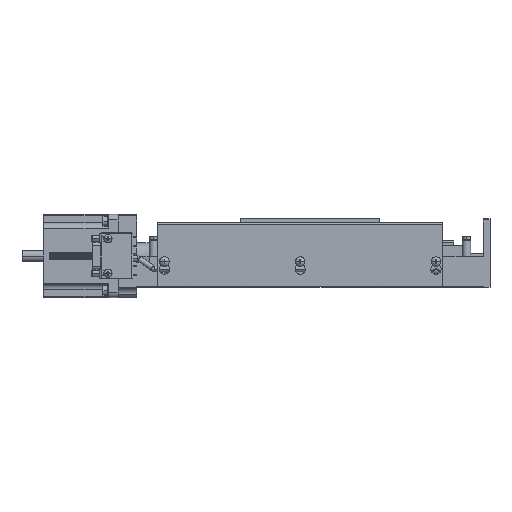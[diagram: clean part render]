
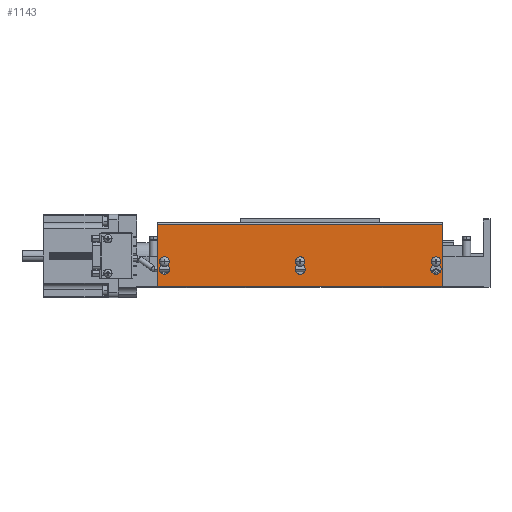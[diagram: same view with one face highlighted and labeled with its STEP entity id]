
A CAD part, front view. The second image highlights one B-rep face of the part: STEP entity #1143.
In plain terms, the highlighted planar face has unit normal (0, -1, 0).
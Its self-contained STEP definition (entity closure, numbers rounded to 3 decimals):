
#1143=ADVANCED_FACE('',(#13620,#13621,#13622,#13623),#13619,.T.);
#13619=PLANE('',#39119);
#13620=FACE_OUTER_BOUND('',#39120,.T.);
#13621=FACE_BOUND('',#39121,.T.);
#13622=FACE_BOUND('',#39122,.T.);
#13623=FACE_BOUND('',#39123,.T.);
#39116=CARTESIAN_POINT('',(-120.,-70.,50.28));
#39117=DIRECTION('',(0.,-1.,0.));
#39118=DIRECTION('',(0.,0.,-1.));
#39119=AXIS2_PLACEMENT_3D('',#39116,#39117,#39118);
#39120=EDGE_LOOP('',(#59580,#59581,#59582,#59583));
#39121=EDGE_LOOP('',(#59584,#59585,#59586,#59587));
#39122=EDGE_LOOP('',(#59588,#59589,#59590,#59591));
#39123=EDGE_LOOP('',(#59592,#59593,#59594,#59595));
#59580=ORIENTED_EDGE('',*,*,#71570,.F.);
#59581=ORIENTED_EDGE('',*,*,#71585,.F.);
#59582=ORIENTED_EDGE('',*,*,#71560,.T.);
#59583=ORIENTED_EDGE('',*,*,#71584,.T.);
#59584=ORIENTED_EDGE('',*,*,#71586,.F.);
#59585=ORIENTED_EDGE('',*,*,#71587,.F.);
#59586=ORIENTED_EDGE('',*,*,#71588,.F.);
#59587=ORIENTED_EDGE('',*,*,#71530,.F.);
#59588=ORIENTED_EDGE('',*,*,#71589,.F.);
#59589=ORIENTED_EDGE('',*,*,#71590,.F.);
#59590=ORIENTED_EDGE('',*,*,#71591,.F.);
#59591=ORIENTED_EDGE('',*,*,#71550,.F.);
#59592=ORIENTED_EDGE('',*,*,#71592,.F.);
#59593=ORIENTED_EDGE('',*,*,#71593,.F.);
#59594=ORIENTED_EDGE('',*,*,#71594,.F.);
#59595=ORIENTED_EDGE('',*,*,#71540,.F.);
#71530=EDGE_CURVE('',#91454,#91446,#97638,.T.);
#71540=EDGE_CURVE('',#90896,#90888,#97704,.T.);
#71550=EDGE_CURVE('',#91175,#91167,#97770,.T.);
#71560=EDGE_CURVE('',#97836,#97829,#97837,.T.);
#71570=EDGE_CURVE('',#97899,#97906,#97907,.T.);
#71584=EDGE_CURVE('',#97829,#97906,#97998,.T.);
#71585=EDGE_CURVE('',#97836,#97899,#98004,.T.);
#71586=EDGE_CURVE('',#98010,#91454,#98011,.T.);
#71587=EDGE_CURVE('',#98017,#98010,#98018,.T.);
#71588=EDGE_CURVE('',#91446,#98017,#98024,.T.);
#71589=EDGE_CURVE('',#98030,#91175,#98031,.T.);
#71590=EDGE_CURVE('',#98037,#98030,#98038,.T.);
#71591=EDGE_CURVE('',#91167,#98037,#98044,.T.);
#71592=EDGE_CURVE('',#98050,#90896,#98051,.T.);
#71593=EDGE_CURVE('',#98057,#98050,#98058,.T.);
#71594=EDGE_CURVE('',#90888,#98057,#98064,.T.);
#90888=VERTEX_POINT('',#130734);
#90896=VERTEX_POINT('',#130740);
#91167=VERTEX_POINT('',#130906);
#91175=VERTEX_POINT('',#130912);
#91446=VERTEX_POINT('',#131078);
#91454=VERTEX_POINT('',#131084);
#97638=CIRCLE('',#134787,3.75);
#97704=CIRCLE('',#134827,3.75);
#97770=CIRCLE('',#134867,3.75);
#97829=VERTEX_POINT('',#134904);
#97836=VERTEX_POINT('',#134908);
#97837=LINE('',#134909,#134910);
#97899=VERTEX_POINT('',#134946);
#97906=VERTEX_POINT('',#134951);
#97907=LINE('',#134952,#134953);
#97998=LINE('',#135010,#135011);
#98004=LINE('',#135013,#135014);
#98010=VERTEX_POINT('',#135016);
#98011=CIRCLE('',#135020,3.45);
#98017=VERTEX_POINT('',#135021);
#98018=CIRCLE('',#135025,3.45);
#98024=CIRCLE('',#135029,3.45);
#98030=VERTEX_POINT('',#135030);
#98031=CIRCLE('',#135034,3.45);
#98037=VERTEX_POINT('',#135035);
#98038=CIRCLE('',#135039,3.45);
#98044=CIRCLE('',#135043,3.45);
#98050=VERTEX_POINT('',#135044);
#98051=CIRCLE('',#135048,3.45);
#98057=VERTEX_POINT('',#135049);
#98058=CIRCLE('',#135053,3.45);
#98064=CIRCLE('',#135057,3.45);
#130734=CARTESIAN_POINT('',(93.32,-70.,16.446));
#130740=CARTESIAN_POINT('',(88.68,-70.,16.446));
#130906=CARTESIAN_POINT('',(-4.68,-70.,16.446));
#130912=CARTESIAN_POINT('',(-9.32,-70.,16.446));
#131078=CARTESIAN_POINT('',(-102.68,-70.,16.446));
#131084=CARTESIAN_POINT('',(-107.32,-70.,16.446));
#134784=CARTESIAN_POINT('',(-105.,-70.,13.5));
#134785=DIRECTION('',(0.,-1.,0.));
#134786=DIRECTION('',(-0.619,0.,0.786));
#134787=AXIS2_PLACEMENT_3D('',#134784,#134785,#134786);
#134824=CARTESIAN_POINT('',(91.,-70.,13.5));
#134825=DIRECTION('',(0.,-1.,0.));
#134826=DIRECTION('',(-0.619,0.,0.786));
#134827=AXIS2_PLACEMENT_3D('',#134824,#134825,#134826);
#134864=CARTESIAN_POINT('',(-7.,-70.,13.5));
#134865=DIRECTION('',(0.,-1.,0.));
#134866=DIRECTION('',(-0.619,0.,0.786));
#134867=AXIS2_PLACEMENT_3D('',#134864,#134865,#134866);
#134904=CARTESIAN_POINT('',(-110.,-70.,1.));
#134908=CARTESIAN_POINT('',(-110.,-70.,45.8));
#134909=CARTESIAN_POINT('',(-110.,-70.,45.8));
#134910=VECTOR('',#134911,44.8);
#134911=DIRECTION('',(0.,0.,-1.));
#134946=CARTESIAN_POINT('',(96.,-70.,45.8));
#134951=CARTESIAN_POINT('',(96.,-70.,1.));
#134952=CARTESIAN_POINT('',(96.,-70.,45.8));
#134953=VECTOR('',#134954,44.8);
#134954=DIRECTION('',(0.,0.,-1.));
#135010=CARTESIAN_POINT('',(-110.,-70.,1.));
#135011=VECTOR('',#135012,206.);
#135012=DIRECTION('',(1.,0.,0.));
#135013=CARTESIAN_POINT('',(-110.,-70.,45.8));
#135014=VECTOR('',#135015,206.);
#135015=DIRECTION('',(1.,0.,0.));
#135016=CARTESIAN_POINT('',(-108.45,-70.,19.));
#135017=CARTESIAN_POINT('',(-105.,-70.,19.));
#135018=DIRECTION('',(0.,-1.,0.));
#135019=DIRECTION('',(0.672,0.,-0.74));
#135020=AXIS2_PLACEMENT_3D('',#135017,#135018,#135019);
#135021=CARTESIAN_POINT('',(-101.55,-70.,19.));
#135022=CARTESIAN_POINT('',(-105.,-70.,19.));
#135023=DIRECTION('',(0.,-1.,0.));
#135024=DIRECTION('',(0.672,0.,-0.74));
#135025=AXIS2_PLACEMENT_3D('',#135022,#135023,#135024);
#135026=CARTESIAN_POINT('',(-105.,-70.,19.));
#135027=DIRECTION('',(0.,-1.,0.));
#135028=DIRECTION('',(0.672,0.,-0.74));
#135029=AXIS2_PLACEMENT_3D('',#135026,#135027,#135028);
#135030=CARTESIAN_POINT('',(-10.45,-70.,19.));
#135031=CARTESIAN_POINT('',(-7.,-70.,19.));
#135032=DIRECTION('',(0.,-1.,0.));
#135033=DIRECTION('',(0.672,0.,-0.74));
#135034=AXIS2_PLACEMENT_3D('',#135031,#135032,#135033);
#135035=CARTESIAN_POINT('',(-3.55,-70.,19.));
#135036=CARTESIAN_POINT('',(-7.,-70.,19.));
#135037=DIRECTION('',(0.,-1.,0.));
#135038=DIRECTION('',(0.672,0.,-0.74));
#135039=AXIS2_PLACEMENT_3D('',#135036,#135037,#135038);
#135040=CARTESIAN_POINT('',(-7.,-70.,19.));
#135041=DIRECTION('',(0.,-1.,0.));
#135042=DIRECTION('',(0.672,0.,-0.74));
#135043=AXIS2_PLACEMENT_3D('',#135040,#135041,#135042);
#135044=CARTESIAN_POINT('',(87.55,-70.,19.));
#135045=CARTESIAN_POINT('',(91.,-70.,19.));
#135046=DIRECTION('',(0.,-1.,0.));
#135047=DIRECTION('',(0.672,0.,-0.74));
#135048=AXIS2_PLACEMENT_3D('',#135045,#135046,#135047);
#135049=CARTESIAN_POINT('',(94.45,-70.,19.));
#135050=CARTESIAN_POINT('',(91.,-70.,19.));
#135051=DIRECTION('',(0.,-1.,0.));
#135052=DIRECTION('',(0.672,0.,-0.74));
#135053=AXIS2_PLACEMENT_3D('',#135050,#135051,#135052);
#135054=CARTESIAN_POINT('',(91.,-70.,19.));
#135055=DIRECTION('',(0.,-1.,0.));
#135056=DIRECTION('',(0.672,0.,-0.74));
#135057=AXIS2_PLACEMENT_3D('',#135054,#135055,#135056);
